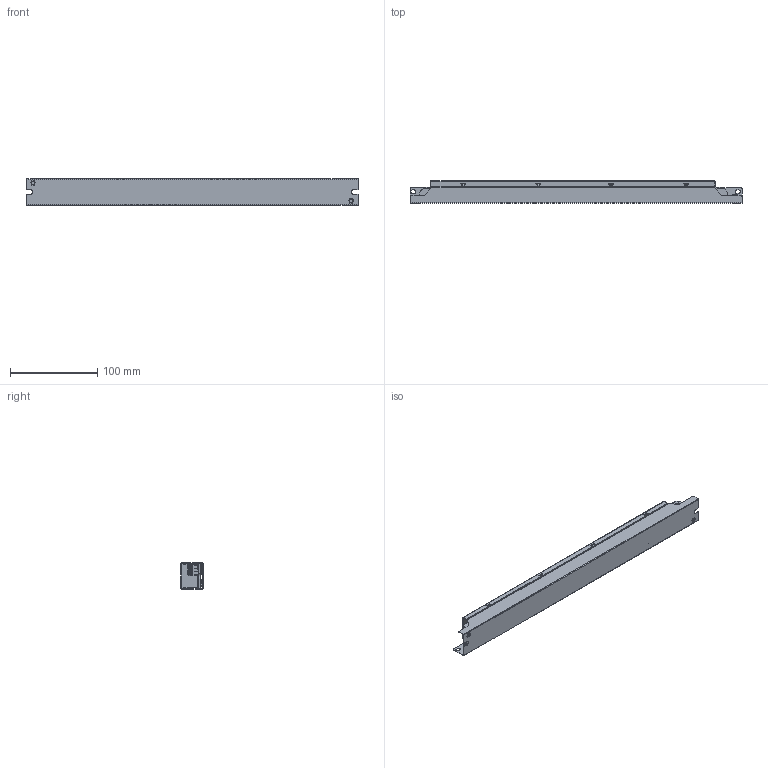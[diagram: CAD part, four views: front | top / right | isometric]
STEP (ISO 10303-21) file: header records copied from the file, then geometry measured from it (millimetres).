
FILE_DESCRIPTION((''),'2;1');
FILE_NAME('85_TD_240819_ASM','2025-08-15T16:40:57',('Administrator'),(''),'CREO PARAMETRIC BY PTC INC, 2020053','CREO PARAMETRIC BY PTC INC, 2020053','');
FILE_SCHEMA(('CONFIG_CONTROL_DESIGN','SHAPE_APPEARANCE_LAYERS_GROUPS'));
Length unit declared in the file: inch
Products named in the file (167): 85W_BOTTOM_21_1_1_1; 85W_TOP_24_1_1_1; NEILUOWEN-M3_10_1_1_2_1_1; OPEN_CASCADE_STEP_TRANSLATO-247; OPEN_CASCADE_STEP_TRANSLATO-237_ASM; BOARD_ASM_10_ASM_1_ASM_1_ASM; R_1206-7060_1_1_1_1; R_1206-7060_2_1_1_1; R_1206-7060_3_1_1_1; R_1206-7060_ASM_1_ASM_1_ASM_1_ASM; LOGO_-11556_1_1_1_1; LOGO_-11556_2_1_1_1; LOGO_-11556_3_1_1_1; LOGO_-11556_4_1_1_1; LOGO_-11556_5_1_1_1; LOGO_-11556_6_1_1_1; LOGO_-11556_7_1_1_1; LOGO_-11556_8_1_1_1; LOGO_-11556_9_1_1_1; LOGO_-11556_10_1_1_1; LOGO_-11556_11_1_1_1; LOGO_-11556_12_1_1_1; LOGO_-11556_13_1_1_1; LOGO_-11556_14_1_1_1; LOGO_-11556_ASM_1_ASM_1_ASM_1_ASM; R_1206-7046_ASM_1_ASM_1_ASM_1_ASM; R33_ASM_1_1_ASM_1_ASM_1_ASM; R41_ASM_3_ASM_2_ASM_1_ASM; S1_ASM_2_1_1; EXTRUDED-22759_1_1_1; 6666250304_ASM_1_ASM_1_ASM_1_ASM; R137_ASM_1_ASM_1_ASM_1_ASM; P7_ASM_1_1_1; EXTRUDED-34068_1_1_1; 6666249824_ASM_1_ASM_1_ASM_1_ASM; C80_ASM_1_ASM_1_ASM_1_ASM; C79_ASM_1_ASM_1_ASM_1_ASM; C40_ASM_1_ASM_1_ASM_1_ASM; CIRCUITWORKS-1206_RESISTOR_1_2_; C8_ASM_2_1_ASM_1_ASM_1_ASM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
Assembly tree (199 placements, depth 10):
  85_TD_240819_ASM
    85_TD_240808_ASM_1_ASM
      85_TD_240521_ASM_1_ASM_1_ASM
        85W-CASE_ASM_10_1_ASM_1_ASM_1_ASM
          85W_BOTTOM_21_1_1_1
          85W_TOP_24_1_1_1
          NEILUOWEN-M3_10_1_1_2_1_1  x2
          MAC-TD-PS-MCU_-_0_0001_ASM_2_1__ASM
            PCB_ASM_11_ASM_1_ASM_1_ASM
              BOARD_ASM_10_ASM_1_ASM_1_ASM
                OPEN_CASCADE_STEP_TRANSLATO-237_ASM
                  OPEN_CASCADE_STEP_TRANSLATO-247
              R33_ASM_1_1_ASM_1_ASM_1_ASM
                R_1206-7046_ASM_1_ASM_1_ASM_1_ASM
                  R_1206-7060_ASM_1_ASM_1_ASM_1_ASM
                  LOGO_-11556_ASM_1_ASM_1_ASM_1_ASM
              R41_ASM_3_ASM_2_ASM_1_ASM
                R_1206-7046_ASM_1_ASM_1_ASM_1_ASM
                  R_1206-7060_ASM_1_ASM_1_ASM_1_ASM
                  LOGO_-11556_ASM_1_ASM_1_ASM_1_ASM
              S1_ASM_2_1_1
              R137_ASM_1_ASM_1_ASM_1_ASM
                6666250304_ASM_1_ASM_1_ASM_1_ASM
                  EXTRUDED-22759_1_1_1
              P7_ASM_1_1_1
              C80_ASM_1_ASM_1_ASM_1_ASM
                6666249824_ASM_1_ASM_1_ASM_1_ASM
                  EXTRUDED-34068_1_1_1
              C79_ASM_1_ASM_1_ASM_1_ASM
                6666249824_ASM_1_ASM_1_ASM_1_ASM
                  EXTRUDED-34068_1_1_1
              C40_ASM_1_ASM_1_ASM_1_ASM
                R_1206-7046_ASM_1_ASM_1_ASM_1_ASM
                  R_1206-7060_ASM_1_ASM_1_ASM_1_ASM
                  LOGO_-11556_ASM_1_ASM_1_ASM_1_ASM
              C8_ASM_2_1_ASM_1_ASM_1_ASM
                CIRCUITWORKS-1206_RESISTOR_1_2_
              C6_ASM_2_ASM_1_ASM_1_ASM
                R_1206-7046_ASM_1_ASM_1_ASM_1_ASM
                  R_1206-7060_ASM_1_ASM_1_ASM_1_ASM
                  LOGO_-11556_ASM_1_ASM_1_ASM_1_ASM
              C5_ASM_1_ASM_1_ASM_1_ASM
                R_1206-7046_ASM_1_ASM_1_ASM_1_ASM
                  R_1206-7060_ASM_1_ASM_1_ASM_1_ASM
                  LOGO_-11556_ASM_1_ASM_1_ASM_1_ASM
              C4_ASM_2_ASM_1_ASM_1_ASM
                CIRCUITWORKS-1206_RESISTOR_2__2
              C2_ASM_3_ASM_1_ASM_1_ASM
                R_1206-7046_ASM_1_ASM_1_ASM_1_ASM
                  R_1206-7060_ASM_1_ASM_1_ASM_1_ASM
                  LOGO_-11556_ASM_1_ASM_1_ASM_1_ASM
              C1_ASM_3_ASM_1_ASM_1_ASM
                R_1206-7046_ASM_1_ASM_1_ASM_1_ASM
                  R_1206-7060_ASM_1_ASM_1_ASM_1_ASM
                  LOGO_-11556_ASM_1_ASM_1_ASM_1_ASM
              P5_ASM_1_1_1
              Q2_ASM_4_ASM_2_ASM_1_ASM
                USER_LIBRARY-DPAK-1_1_1_2_1
              Q1_ASM_4_ASM_2_ASM_1_ASM
                USER_LIBRARY-DPAK-1_2_1_2_1_1
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Bounding box: 380 x 25.6 x 30 mm (x, y, z)
Volume: 46193 mm3; surface area: 133914.4 mm2
Topology: 99 solids, 343 shells, 4020 faces, 10957 edges, 7709 vertices
Faces by surface type: plane 2646, cylinder 902, extrusion 186, torus 182, bspline 92, cone 12
Entity records: 131094 total; most frequent: CARTESIAN_POINT 30496, DIRECTION 14322, ORIENTED_EDGE 14206, PRESENTATION_STYLE_ASSIGNMENT 8152, STYLED_ITEM 7424, EDGE_CURVE 7253, CURVE_STYLE 7202, AXIS2_PLACEMENT_3D 4908
